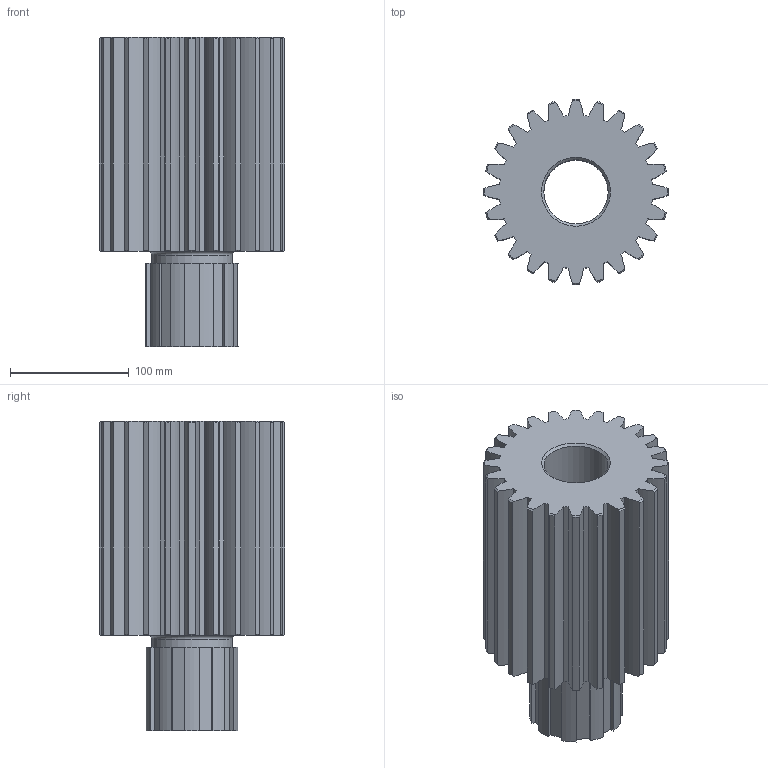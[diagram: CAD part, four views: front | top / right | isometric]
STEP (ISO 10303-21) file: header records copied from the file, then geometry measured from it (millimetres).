
FILE_DESCRIPTION(/* description */ (''),/* implementation_level */ '2;1');
FILE_NAME(/* name */ 'C:\Users\jbart\OneDrive\Plocha\Nová složka\3D modely - stp\Hřídel III.stp',/* time_stamp */ '2025-05-15T16:48:45+02:00',/* author */ ('jbart'),/* organization */ (''),/* preprocessor_version */ 'ST-DEVELOPER v18.1',/* originating_system */ 'Autodesk Inventor 2022',/* authorisation */ '');
FILE_SCHEMA (('AUTOMOTIVE_DESIGN { 1 0 10303 214 3 1 1 }'));
Length unit declared in the file: millimetre
Products named in the file (3): Hřídel III; Čelní ozubená kola; Čelní ozubené kolo1
Assembly tree (2 placements, depth 3):
  Hřídel III
    Čelní ozubená kola
      Čelní ozubené kolo1
Bounding box: 155.98 x 155.98 x 260 mm (x, y, z)
Volume: 2650801.4 mm3; surface area: 260511.4 mm2
Topology: 1 solids, 1 shells, 193 faces, 566 edges, 377 vertices
Faces by surface type: cylinder 108, cone 50, plane 34, torus 1
Full cylindrical faces by diameter (mm): 54 x1, 68 x1
Entity records: 6751 total; most frequent: CARTESIAN_POINT 1430, DIRECTION 1138, ORIENTED_EDGE 1132, EDGE_CURVE 566, AXIS2_PLACEMENT_3D 469, VERTEX_POINT 377, CIRCLE 270, LINE 200
